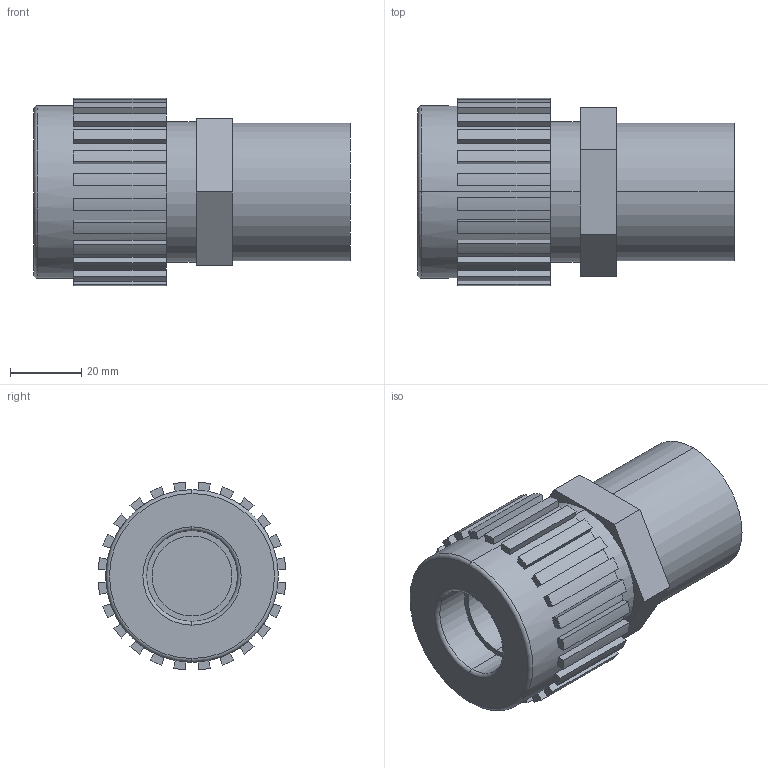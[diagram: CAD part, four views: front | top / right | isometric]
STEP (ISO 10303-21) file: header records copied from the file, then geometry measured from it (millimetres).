
FILE_DESCRIPTION (( 'STEP AP214' ), '1' );
FILE_NAME ('16-s-300.STEP', '2012-12-03T18:31:09', ( '' ), ( '' ), 'SwSTEP 2.0', 'SolidWorks 2012', '' );
FILE_SCHEMA (( 'AUTOMOTIVE_DESIGN' ));
Length unit declared in the file: inch
Products named in the file (1): 16-s-300
Bounding box: 88.96 x 52.72 x 52.72 mm (x, y, z)
Volume: 121621.8 mm3; surface area: 22451.8 mm2
Topology: 1 solids, 1 shells, 123 faces, 344 edges, 228 vertices
Faces by surface type: plane 85, cylinder 34, torus 4
Entity records: 4199 total; most frequent: DIRECTION 716, CARTESIAN_POINT 696, ORIENTED_EDGE 688, EDGE_CURVE 344, AXIS2_PLACEMENT_3D 248, VERTEX_POINT 228, LINE 220, VECTOR 220
